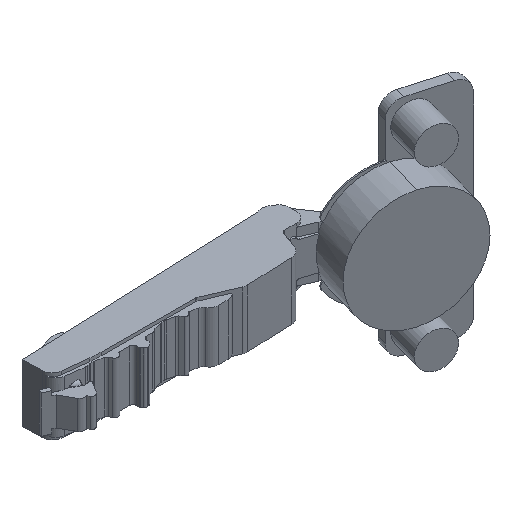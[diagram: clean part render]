
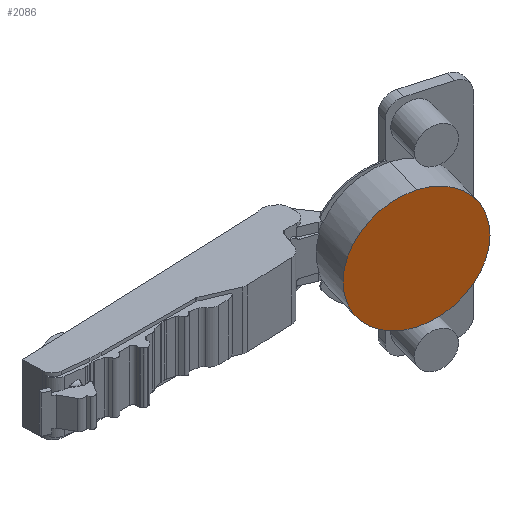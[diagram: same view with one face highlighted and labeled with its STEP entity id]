
A CAD part, isometric view. The second image highlights one B-rep face of the part: STEP entity #2086.
In plain terms, the highlighted planar face has unit normal (-0.277, -0.961, 0).
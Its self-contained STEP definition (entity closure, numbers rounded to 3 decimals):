
#143 = EDGE_LOOP ( 'NONE', ( #6575, #1458 ) ) ;
#787 = CIRCLE ( 'NONE', #4311, 17.4 ) ;
#796 = AXIS2_PLACEMENT_3D ( 'NONE', #4773, #6943, #4170 ) ;
#1030 = CARTESIAN_POINT ( 'NONE',  ( 18.471, -22.875, 17.4 ) ) ;
#1148 = EDGE_CURVE ( 'NONE', #5909, #5483, #787, .T. ) ;
#1458 = ORIENTED_EDGE ( 'NONE', *, *, #1148, .T. ) ;
#2006 = FACE_OUTER_BOUND ( 'NONE', #143, .T. ) ;
#2086 = ADVANCED_FACE ( 'NONE', ( #2006 ), #6466, .F. ) ;
#2738 = CARTESIAN_POINT ( 'NONE',  ( 18.471, -22.875, 0. ) ) ;
#2921 = DIRECTION ( 'NONE',  ( 0.961, -0.276, 0. ) ) ;
#3269 = CIRCLE ( 'NONE', #3846, 17.4 ) ;
#3846 = AXIS2_PLACEMENT_3D ( 'NONE', #6359, #6970, #4238 ) ;
#3858 = DIRECTION ( 'NONE',  ( -0.276, -0.961, 0. ) ) ;
#4170 = DIRECTION ( 'NONE',  ( 0., 0., 1. ) ) ;
#4238 = DIRECTION ( 'NONE',  ( 0.961, -0.276, 0. ) ) ;
#4311 = AXIS2_PLACEMENT_3D ( 'NONE', #2738, #3858, #2921 ) ;
#4773 = CARTESIAN_POINT ( 'NONE',  ( 29.011, -25.907, -7.7 ) ) ;
#5483 = VERTEX_POINT ( 'NONE', #1030 ) ;
#5860 = CARTESIAN_POINT ( 'NONE',  ( 18.471, -22.875, -17.4 ) ) ;
#5909 = VERTEX_POINT ( 'NONE', #5860 ) ;
#6359 = CARTESIAN_POINT ( 'NONE',  ( 18.471, -22.875, 0. ) ) ;
#6466 = PLANE ( 'NONE',  #796 ) ;
#6575 = ORIENTED_EDGE ( 'NONE', *, *, #7001, .T. ) ;
#6943 = DIRECTION ( 'NONE',  ( 0.276, 0.961, 0. ) ) ;
#6970 = DIRECTION ( 'NONE',  ( -0.276, -0.961, 0. ) ) ;
#7001 = EDGE_CURVE ( 'NONE', #5483, #5909, #3269, .T. ) ;
